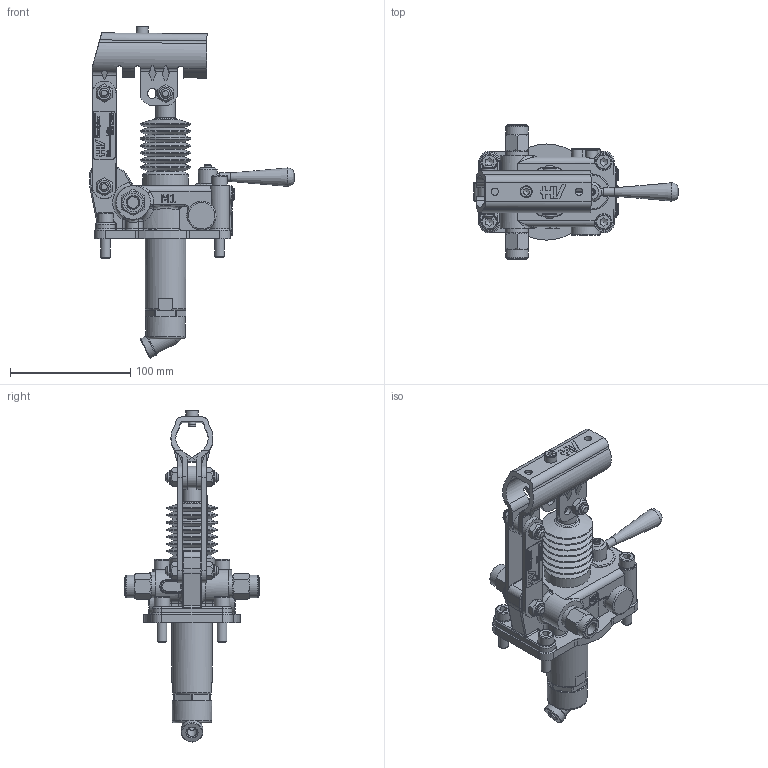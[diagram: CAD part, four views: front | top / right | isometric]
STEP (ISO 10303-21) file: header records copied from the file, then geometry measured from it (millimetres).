
FILE_DESCRIPTION((''),'2;1');
FILE_NAME('G:\HV_HYDRAULIC\AZIENDA_HV_HYDRAULIC\ARCHIVIO_DISEGNI\5_PRODOTTI_FINITI\1_POMPE_MANUALI\6061_PMDVB_25\6061.0303_PMDVB_25_ca-byB-s_(HV)\6061.0303.stp','2024-03-07T15:11:52',('christian.scardovi'),(''),'Autodesk Inventor 2013','Autodesk Inventor 2013','');
FILE_SCHEMA(('AUTOMOTIVE_DESIGN { 1 0 10303 214 1 1 1 1 }'));
Length unit declared in the file: millimetre
Products named in the file (1): 6061.0303
Bounding box: 170 x 112 x 276.08 mm (x, y, z)
Volume: 460235.1 mm3; surface area: 130199 mm2
Topology: 3 solids, 3 shells, 1698 faces, 4333 edges, 2744 vertices
Faces by surface type: plane 817, cylinder 377, cone 192, bspline 184, torus 115, sphere 13
Full cylindrical faces by diameter (mm): 1.2 x4, 3 x8, 4 x4, 4.917 x13, 5 x12, 6 x8, 6.5 x3, 6.917 x2, 7 x3, 8 x15, 9 x3, 9.2 x1, 10 x13, 10.376 x1, 10.5 x2, 10.917 x3, 11.05 x6, 11.445 x2, 12 x7, 13 x4, 13.2 x1, 14 x4, 14.95 x2, 15.5 x2, 15.9 x2, 16 x5, 17.6 x1, 18 x4, 19 x4, 22 x1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
Entity records: 53139 total; most frequent: CARTESIAN_POINT 14166, ORIENTED_EDGE 7678, DIRECTION 7194, EDGE_CURVE 3839, AXIS2_PLACEMENT_3D 2597, VERTEX_POINT 2583, EDGE_LOOP 2177, VECTOR 2000
